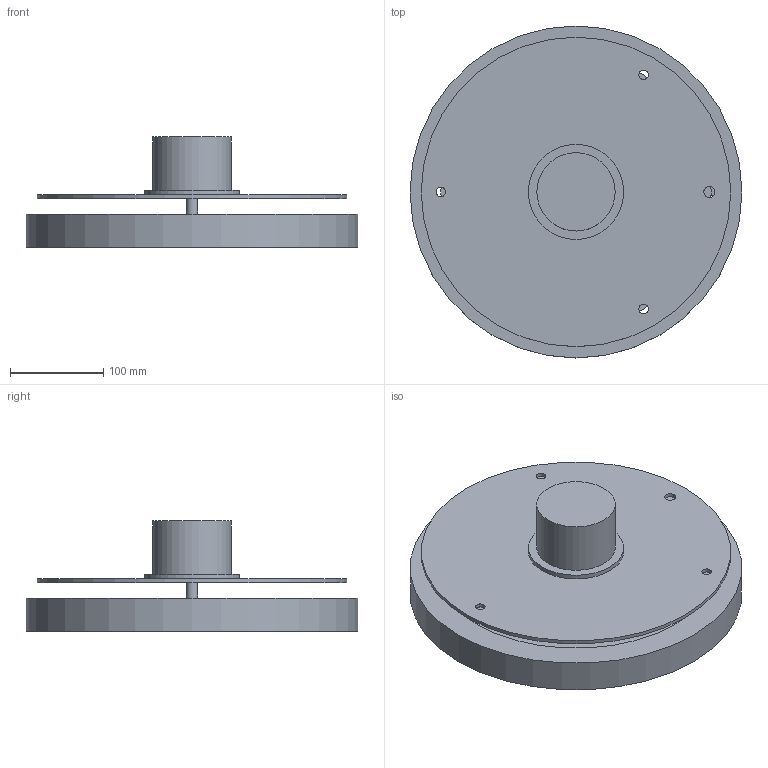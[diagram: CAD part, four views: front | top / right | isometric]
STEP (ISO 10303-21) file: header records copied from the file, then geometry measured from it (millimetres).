
FILE_DESCRIPTION(('Open CASCADE Model'),'2;1');
FILE_NAME('Open CASCADE Shape Model','2026-09-16T16:54:28',('Author'),( 'Open CASCADE'),'Open CASCADE STEP processor 7.8','Open CASCADE 7.8' ,'Unknown');
FILE_SCHEMA(('AUTOMOTIVE_DESIGN { 1 0 10303 214 1 1 1 1 }'));
Length unit declared in the file: millimetre
Products named in the file (6): cutting_deck_subassembly; guard; height_carriage; blade_carrier; blade_motor_proxy; pivot_blade_1
Assembly tree (7 placements, depth 2):
  cutting_deck_subassembly
    guard
    height_carriage
    blade_carrier
    blade_motor_proxy
    pivot_blade_1  x3
Bounding box: 356 x 356 x 118 mm (x, y, z)
Volume: 1283435.5 mm3; surface area: 475031.4 mm2
Topology: 7 solids, 7 shells, 67 faces, 147 edges, 97 vertices
Faces by surface type: cylinder 38, plane 29
Full cylindrical faces by diameter (mm): 5.2 x3, 5.5 x9, 10.2 x3, 12 x2, 16 x1, 84 x1, 86 x1, 102 x1, 290 x1, 300 x1, 332 x1, 338 x1, 356 x1
Entity records: 2576 total; most frequent: CARTESIAN_POINT 558, DIRECTION 389, ORIENTED_EDGE 178, PCURVE 178, DEFINITIONAL_REPRESENTATION 178, LINE 165, VECTOR 165, AXIS2_PLACEMENT_3D 102
